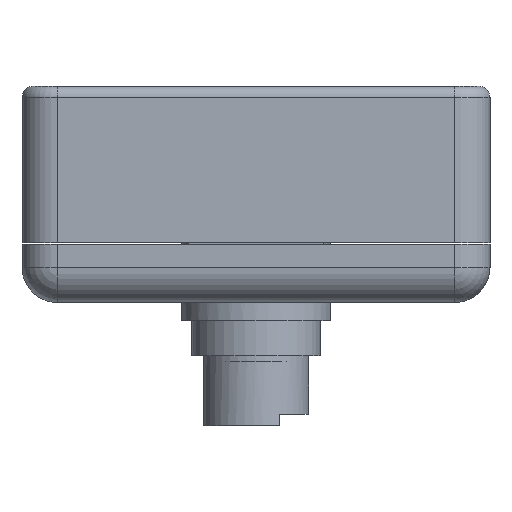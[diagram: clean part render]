
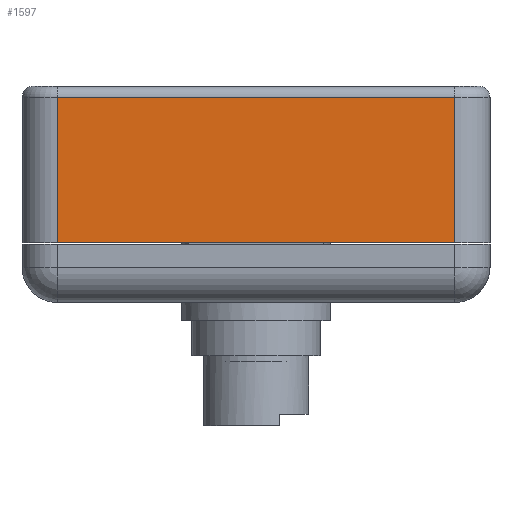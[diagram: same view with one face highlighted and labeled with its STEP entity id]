
A CAD part, front view. The second image highlights one B-rep face of the part: STEP entity #1597.
In plain terms, the highlighted planar face has unit normal (0, -1, 0).
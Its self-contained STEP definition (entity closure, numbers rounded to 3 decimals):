
#1570 = VERTEX_POINT ( 'NONE', #7641 ) ;
#1571 = VERTEX_POINT ( 'NONE', #7640 ) ;
#1572 = ORIENTED_EDGE ( 'NONE', *, *, #1573, .T. ) ;
#1573 = EDGE_CURVE ( 'NONE', #1571, #1574, #7639, .T. ) ;
#1574 = VERTEX_POINT ( 'NONE', #7635 ) ;
#1575 = ORIENTED_EDGE ( 'NONE', *, *, #1576, .T. ) ;
#1576 = EDGE_CURVE ( 'NONE', #1574, #1577, #7634, .T. ) ;
#1577 = VERTEX_POINT ( 'NONE', #7630 ) ;
#1578 = ORIENTED_EDGE ( 'NONE', *, *, #1579, .T. ) ;
#1579 = EDGE_CURVE ( 'NONE', #1577, #1570, #7628, .T. ) ;
#1597 = ADVANCED_FACE ( 'NONE', ( #7693 ), #7738, .F. ) ;
#1598 = EDGE_LOOP ( 'NONE', ( #1599, #1572, #1575, #1578 ) ) ;
#1599 = ORIENTED_EDGE ( 'NONE', *, *, #1600, .T. ) ;
#1600 = EDGE_CURVE ( 'NONE', #1570, #1571, #7733, .T. ) ;
#7625 = DIRECTION ( 'NONE',  ( 1., 0., 0. ) ) ;
#7626 = VECTOR ( 'NONE', #7625, 1000. ) ;
#7627 = CARTESIAN_POINT ( 'NONE',  ( -17., -35., 5.1 ) ) ;
#7628 = LINE ( 'NONE', #7627, #7626 ) ;
#7630 = CARTESIAN_POINT ( 'NONE',  ( -17., -35., 5.1 ) ) ;
#7631 = DIRECTION ( 'NONE',  ( 0., 0., -1. ) ) ;
#7632 = VECTOR ( 'NONE', #7631, 1000. ) ;
#7633 = CARTESIAN_POINT ( 'NONE',  ( -17., -35., 18.5 ) ) ;
#7634 = LINE ( 'NONE', #7633, #7632 ) ;
#7635 = CARTESIAN_POINT ( 'NONE',  ( -17., -35., 17.5 ) ) ;
#7636 = DIRECTION ( 'NONE',  ( -1., 0., 0. ) ) ;
#7637 = VECTOR ( 'NONE', #7636, 1000. ) ;
#7638 = CARTESIAN_POINT ( 'NONE',  ( -17., -35., 17.5 ) ) ;
#7639 = LINE ( 'NONE', #7638, #7637 ) ;
#7640 = CARTESIAN_POINT ( 'NONE',  ( 17., -35., 17.5 ) ) ;
#7641 = CARTESIAN_POINT ( 'NONE',  ( 17., -35., 5.1 ) ) ;
#7693 = FACE_OUTER_BOUND ( 'NONE', #1598, .T. ) ;
#7730 = DIRECTION ( 'NONE',  ( 0., 0., 1. ) ) ;
#7731 = VECTOR ( 'NONE', #7730, 1000. ) ;
#7732 = CARTESIAN_POINT ( 'NONE',  ( 17., -35., 18.5 ) ) ;
#7733 = LINE ( 'NONE', #7732, #7731 ) ;
#7734 = DIRECTION ( 'NONE',  ( 0., 0., 1. ) ) ;
#7735 = DIRECTION ( 'NONE',  ( 0., 1., 0. ) ) ;
#7736 = CARTESIAN_POINT ( 'NONE',  ( -20., -35., 18.5 ) ) ;
#7737 = AXIS2_PLACEMENT_3D ( 'NONE', #7736, #7735, #7734 ) ;
#7738 = PLANE ( 'NONE',  #7737 ) ;
